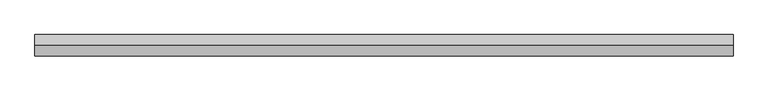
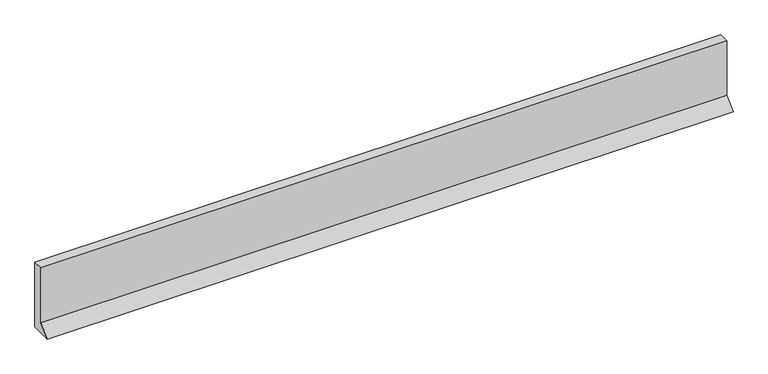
"""IFC4 building model written with IfcOpenShell, lengths in millimetres: plate geometry, ATELIERS 3S_EPURE CDB 200_HORIZONTAL : AZURO."""

from ifc_helpers import new_model, si_unit, frame, origin, place, context, project, spatial, polyline, outline, extrude, source, transform, mapped, element, save


def plate_b628ead0(model_context):
    return source(origin(), model_context, "Body", "SweptSolid", [
        extrude(outline(polyline([(-30.0201339, 31.7071152), (-30.0201339, 200.0), (0.0, 200.0), (0.0, 0.0), (-61.727249, 0.0), (-30.0201339, 31.7071152)])), frame((-1000.637242, 0.0, 0.0), z_axis=(1.0, 0.0, 0.0), x_axis=(0.0, 1.0, 0.0)), (0.0, 0.0, 1.0), 2001.2744839),
    ])


if __name__ == "__main__":
    model = new_model("IFC4")
    model_context = context("Model", 3, world=origin())
    ifc_project = project(units=[si_unit("LENGTHUNIT", "METRE", prefix="MILLI")], contexts=[model_context])
    site = spatial("IfcSite", under=ifc_project)
    building = spatial("IfcBuilding", under=site)
    placement = place(None, origin())
    plate_shape = plate_b628ead0(model_context)
    element("IfcPlate", 1, ObjectType="ATELIERS 3S_EPURE CDB 200_HORIZONTAL : AZURO", at=placement, inside=building, context=model_context, shape_type="MappedRepresentation", body=[
        mapped(plate_shape, transform((0.0, 0.0, 0.0), x_axis=(1.0, 0.0, 0.0), y_axis=(0.0, 1.0, 0.0), z_axis=(0.0, 0.0, 1.0))),
    ])
    save(model, "model.ifc")
